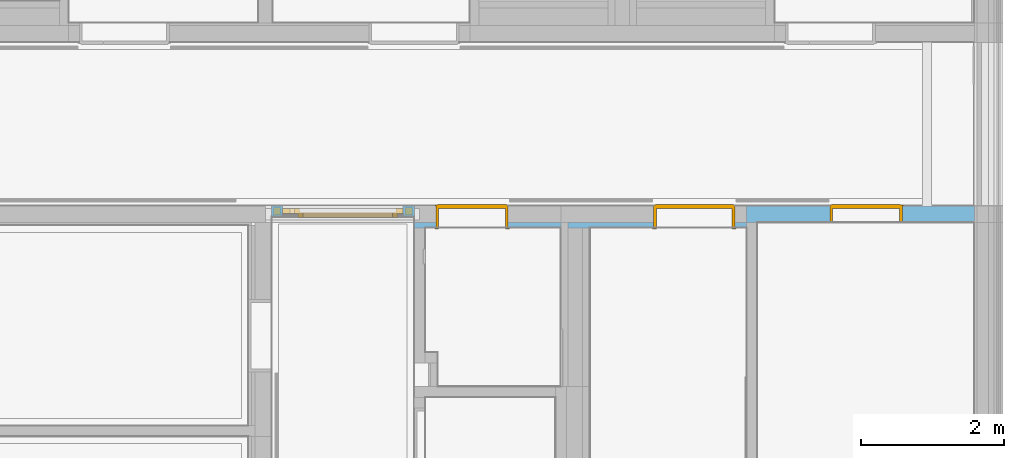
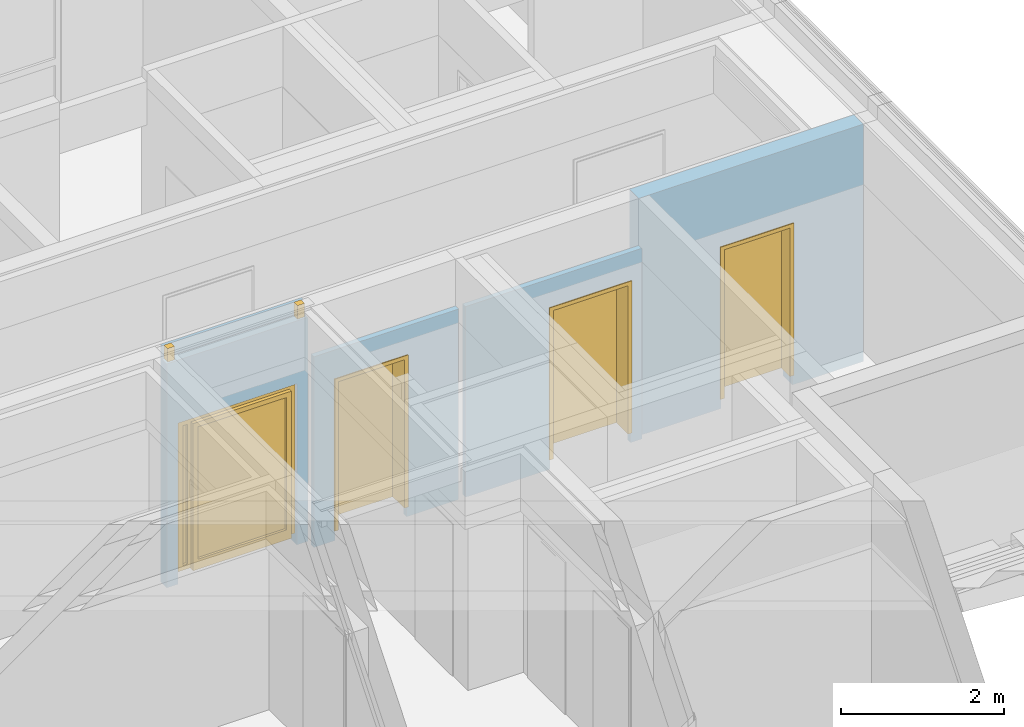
# One storey, part 138 of 222: 4 doors, 4 openings, plus 4 elements that do not belong to this part.
"""IFC4 building model written with IfcOpenShell, lengths in metres."""

from ifc_helpers import new_model, entity, si_unit, converted_unit, derived_unit, frame, frame_2d, origin, origin_with_axes, place, context, subcontext, project, spatial, polyline, rectangle, outline, extrude, clip, bounded_halfspace, closed_shell, open_shell, faceted_brep, surface_model, source, transform, mapped, material, type_object, element, fill, save


model = new_model("IFC4")

# Units and contexts
model_context = context("Model", 3, precision=1e-05, world=origin())
body_context = subcontext(model_context, "Body", "Model", "MODEL_VIEW")
ifc_project = project(units=[si_unit("LENGTHUNIT", "METRE"), si_unit("AREAUNIT", "SQUARE_METRE"), si_unit("VOLUMEUNIT", "CUBIC_METRE"), si_unit("MASSUNIT", "GRAM", prefix="KILO"), converted_unit("PLANEANGLEUNIT", "DEGREE", entity("IfcPlaneAngleMeasure", 0.0174532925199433), si_unit("PLANEANGLEUNIT", "RADIAN"), dimensions=[0, 0, 0, 0, 0, 0, 0]), derived_unit("THERMALTRANSMITTANCEUNIT", [(si_unit("POWERUNIT", "WATT"), 1), (si_unit("THERMODYNAMICTEMPERATUREUNIT", "KELVIN"), -1), (si_unit("LENGTHUNIT", "METRE"), -2)]), derived_unit("VOLUMETRICFLOWRATEUNIT", [(si_unit("LENGTHUNIT", "METRE"), 3), (converted_unit("TIMEUNIT", "hour", entity("IfcTimeMeasure", 3600.0), si_unit("TIMEUNIT", "SECOND"), dimensions=[0, 0, 1, 0, 0, 0, 0]), -1), (si_unit("LENGTHUNIT", "METRE"), -1)])], contexts=[model_context])

# Site, building, storey
site_placement = place(None, origin())
site = spatial("IfcSite", under=ifc_project, at=site_placement, Name="Psychiatrie Neubau Wunstorf", CompositionType="ELEMENT")
building_placement = place(site_placement, origin())
building = spatial("IfcBuilding", under=site, at=building_placement, Name="Neubau H2 Stationsgebäude", CompositionType="ELEMENT")
storey_placement = place(building_placement, frame((0.0, 0.0, 3.6)))
storey = spatial("IfcBuildingStorey", under=building, at=storey_placement, Name="H2 Ebene +1", CompositionType="ELEMENT", Elevation=3.6)

# Wall, opening, door
ifc_material_1 = material(Name="WI-HW 60")
wall_1_placement = place(storey_placement, frame((102.710993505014, 22.6040000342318, 0.0), z_axis=(0.0, 0.0, 1.0), x_axis=(1.0, -1.07714757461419e-08, 0.0)))
wall_1 = element("IfcWall", 1, at=wall_1_placement, inside=storey, material=ifc_material_1, context=body_context, shape_type="SweptSolid", body=[
    extrude(outline(polyline([(0.150006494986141, 0.0), (3.17800649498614, 3.42318198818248e-08), (3.17800649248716, 0.23200003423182), (0.0, 0.232), (0.0, 3.42318198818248e-08), (0.150006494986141, 0.0)])), frame((0.0, -3.42318198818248e-08, 0.0), z_axis=(0.0, 0.0, 1.0), x_axis=(1.0, 0.0, 0.0)), (0.0, 0.0, 1.0), 3.55),
])
opening_1_placement = place(wall_1_placement, frame((1.16155181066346, -2.17201927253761e-08, 0.0), z_axis=(-1.07714760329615e-08, 1.0, 0.0), x_axis=(0.0, 0.0, 1.0)))
opening_1 = element("IfcOpeningElement", 2, at=opening_1_placement, cuts=wall_1, Name="SMT", ObjectType="Opening", context=body_context, shape_type="SweptSolid", body=[
    extrude(outline(polyline([(2.41, 1.01), (2.41, 0.0), (0.0, 0.0), (0.0, 1.01), (2.41, 1.01)])), origin_with_axes(), (0.0, 0.0, 1.0), 0.232),
])
ifc_material_2 = material(Name="TI-1F-UZ-ZK")
door_type_1 = type_object("IfcDoorType", Name="SMT", OperationType="SINGLE_SWING_RIGHT", ParameterTakesPrecedence=False, PredefinedType="DOOR")
shared_shape_1 = source(origin_with_axes(), body_context, "Body", "Brep", [
    faceted_brep([(1.01, -0.015, 2.41), (1.01, -0.015, 0.15), (0.97, -0.015, 0.15), (0.97, -0.015, 2.41), (1.01, 0.247, 0.15), (1.01, 0.247, 2.41), (0.97, 0.247, 2.41), (0.97, 0.247, 0.15)], [[[0, 1, 2, 3]], [[4, 5, 6, 7]], [[1, 0, 5, 4]], [[2, 1, 4, 7]], [[3, 2, 7, 6]], [[0, 3, 6, 5]]], orient=[[False], [False], [False], [False], [False], [False]]),
    faceted_brep([(1.01, -0.015, 2.425), (1.025, -0.015, 2.425), (1.025, -0.015, 0.15), (1.01, -0.015, 0.15), (1.01, 0.0, 0.15), (1.025, 0.0, 0.15), (1.025, 0.0, 2.425), (1.01, 0.0, 2.425)], [[[0, 1, 2, 3]], [[4, 5, 6, 7]], [[3, 4, 7, 0]], [[2, 5, 4, 3]], [[1, 6, 5, 2]], [[0, 7, 6, 1]]], orient=[[False], [False], [False], [False], [False], [False]]),
    faceted_brep([(1.01, 0.232, 2.425), (1.025, 0.232, 2.425), (1.025, 0.232, 0.15), (1.01, 0.232, 0.15), (1.01, 0.247, 0.15), (1.025, 0.247, 0.15), (1.025, 0.247, 2.425), (1.01, 0.247, 2.425)], [[[0, 1, 2, 3]], [[4, 5, 6, 7]], [[3, 4, 7, 0]], [[2, 5, 4, 3]], [[1, 6, 5, 2]], [[0, 7, 6, 1]]], orient=[[False], [False], [False], [False], [False], [False]]),
    faceted_brep([(0.04, -0.015, 2.41), (0.04, -0.015, 0.15), (0.0, -0.015, 0.15), (0.0, -0.015, 2.41), (0.04, 0.247, 0.15), (0.04, 0.247, 2.41), (0.0, 0.247, 2.41), (0.0, 0.247, 0.15)], [[[0, 1, 2, 3]], [[4, 5, 6, 7]], [[1, 0, 5, 4]], [[2, 1, 4, 7]], [[3, 2, 7, 6]], [[0, 3, 6, 5]]], orient=[[False], [False], [False], [False], [False], [False]]),
    faceted_brep([(0.0, -0.015, 2.425), (0.0, -0.015, 0.15), (-0.015, -0.015, 0.15), (-0.015, -0.015, 2.425), (0.0, 0.0, 0.15), (0.0, 0.0, 2.425), (-0.015, 0.0, 2.425), (-0.015, 0.0, 0.15)], [[[0, 1, 2, 3]], [[4, 5, 6, 7]], [[1, 0, 5, 4]], [[2, 1, 4, 7]], [[3, 2, 7, 6]], [[0, 3, 6, 5]]], orient=[[False], [False], [False], [False], [False], [False]]),
    faceted_brep([(0.0, 0.232, 2.425), (0.0, 0.232, 0.15), (-0.015, 0.232, 0.15), (-0.015, 0.232, 2.425), (0.0, 0.247, 0.15), (0.0, 0.247, 2.425), (-0.015, 0.247, 2.425), (-0.015, 0.247, 0.15)], [[[0, 1, 2, 3]], [[4, 5, 6, 7]], [[1, 0, 5, 4]], [[2, 1, 4, 7]], [[3, 2, 7, 6]], [[0, 3, 6, 5]]], orient=[[False], [False], [False], [False], [False], [False]]),
    faceted_brep([(0.97, -0.015, 2.41), (0.97, -0.015, 2.37), (0.04, -0.015, 2.37), (0.04, -0.015, 2.41), (0.97, 0.247, 2.37), (0.97, 0.247, 2.41), (0.04, 0.247, 2.41), (0.04, 0.247, 2.37)], [[[0, 1, 2, 3]], [[4, 5, 6, 7]], [[1, 0, 5, 4]], [[2, 1, 4, 7]], [[3, 2, 7, 6]], [[0, 3, 6, 5]]], orient=[[False], [False], [False], [False], [False], [False]]),
    faceted_brep([(1.01, -0.015, 2.425), (1.01, -0.015, 2.41), (0.0, -0.015, 2.41), (0.0, -0.015, 2.425), (1.01, 0.0, 2.41), (1.01, 0.0, 2.425), (0.0, 0.0, 2.425), (0.0, 0.0, 2.41)], [[[0, 1, 2, 3]], [[4, 5, 6, 7]], [[1, 0, 5, 4]], [[2, 1, 4, 7]], [[3, 2, 7, 6]], [[0, 3, 6, 5]]], orient=[[False], [False], [False], [False], [False], [False]]),
    faceted_brep([(1.01, 0.232, 2.425), (1.01, 0.232, 2.41), (0.0, 0.232, 2.41), (0.0, 0.232, 2.425), (1.01, 0.247, 2.41), (1.01, 0.247, 2.425), (0.0, 0.247, 2.425), (0.0, 0.247, 2.41)], [[[0, 1, 2, 3]], [[4, 5, 6, 7]], [[1, 0, 5, 4]], [[2, 1, 4, 7]], [[3, 2, 7, 6]], [[0, 3, 6, 5]]], orient=[[False], [False], [False], [False], [False], [False]]),
    faceted_brep([(0.985, 0.198, 2.385), (0.985, 0.198, 0.15), (0.025, 0.198, 0.15), (0.025, 0.198, 2.385), (0.985, 0.248, 0.15), (0.985, 0.248, 2.385), (0.025, 0.248, 2.385), (0.025, 0.248, 0.15)], [[[0, 1, 2, 3]], [[4, 5, 6, 7]], [[1, 0, 5, 4]], [[2, 1, 4, 7]], [[3, 2, 7, 6]], [[0, 3, 6, 5]]], orient=[[False], [False], [False], [False], [False], [False]]),
])
door_1_placement = place(opening_1_placement, frame((0.0, 0.0, 0.0), z_axis=(1.0, 0.0, 0.0), x_axis=(0.0, 1.0, -2.86819606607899e-16)))
door_1 = element("IfcDoor", 3, at=door_1_placement, inside=storey, type_object=door_type_1, material=ifc_material_2, Name="SMT", OverallHeight=2.41, OverallWidth=1.01, context=body_context, shape_type="MappedRepresentation", body=[
    mapped(shared_shape_1, transform((0.0, 0.0, 0.0), x_axis=(1.0, 0.0, 0.0), y_axis=(0.0, 1.0, 0.0), z_axis=(0.0, 0.0, 1.0), scale=1.0)),
])
fill(opening_1, door_1)

ifc_material_3 = material(Name="WI-LB")
wall_2_placement = place(storey_placement, frame((98.075, 22.5290000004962, 0.0)))
wall_2 = element("IfcWall", 4, at=wall_2_placement, inside=storey, material=ifc_material_3, context=body_context, shape_type="SweptSolid", body=[
    extrude(rectangle(XDim=2.04499214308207, YDim=0.075, at=frame_2d((1.02249607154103, 0.0375), x_axis=(1.0, 0.0))), origin_with_axes(), (0.0, 0.0, 1.0), 2.85),
])
opening_2_placement = place(wall_2_placement, frame((0.300006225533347, 0.0, 0.0), z_axis=(0.0, 1.0, 0.0), x_axis=(0.0, 0.0, 1.0)))
opening_2 = element("IfcOpeningElement", 5, at=opening_2_placement, cuts=wall_2, Name="Türöffnung", ObjectType="Opening", context=body_context, shape_type="SweptSolid", body=[
    extrude(outline(polyline([(2.41, 1.01), (2.41, 0.0), (0.0, 0.0), (0.0, 1.01), (2.41, 1.01)])), origin_with_axes(), (0.0, 0.0, 1.0), 0.075),
])
ifc_material_4 = material(Name="TI-1F-UZ-ZK")
door_type_2 = type_object("IfcDoorType", Name="SMT", OperationType="SINGLE_SWING_RIGHT", ParameterTakesPrecedence=False, PredefinedType="DOOR")
shared_shape_2 = source(origin_with_axes(), body_context, "Body", "Brep", [
    faceted_brep([(0.0, -0.015, 2.41), (0.04, -0.015, 2.41), (0.04, -0.015, 0.15), (0.0, -0.015, 0.15), (0.0, 0.322, 0.15), (0.04, 0.322, 0.15), (0.04, 0.322, 2.41), (0.0, 0.322, 2.41)], [[[0, 1, 2, 3]], [[4, 5, 6, 7]], [[3, 4, 7, 0]], [[2, 5, 4, 3]], [[1, 6, 5, 2]], [[0, 7, 6, 1]]], orient=[[False], [False], [False], [False], [False], [False]]),
    faceted_brep([(0.0, -0.015, 2.425), (0.0, -0.015, 0.15), (-0.015, -0.015, 0.15), (-0.015, -0.015, 2.425), (0.0, 0.0, 0.15), (0.0, 0.0, 2.425), (-0.015, 0.0, 2.425), (-0.015, 0.0, 0.15)], [[[0, 1, 2, 3]], [[4, 5, 6, 7]], [[1, 0, 5, 4]], [[2, 1, 4, 7]], [[3, 2, 7, 6]], [[0, 3, 6, 5]]], orient=[[False], [False], [False], [False], [False], [False]]),
    faceted_brep([(0.0, 0.307, 2.425), (0.0, 0.307, 0.15), (-0.015, 0.307, 0.15), (-0.015, 0.307, 2.425), (0.0, 0.322, 0.15), (0.0, 0.322, 2.425), (-0.015, 0.322, 2.425), (-0.015, 0.322, 0.15)], [[[0, 1, 2, 3]], [[4, 5, 6, 7]], [[1, 0, 5, 4]], [[2, 1, 4, 7]], [[3, 2, 7, 6]], [[0, 3, 6, 5]]], orient=[[False], [False], [False], [False], [False], [False]]),
    faceted_brep([(0.97, -0.015, 2.41), (1.01, -0.015, 2.41), (1.01, -0.015, 0.15), (0.97, -0.015, 0.15), (0.97, 0.322, 0.15), (1.01, 0.322, 0.15), (1.01, 0.322, 2.41), (0.97, 0.322, 2.41)], [[[0, 1, 2, 3]], [[4, 5, 6, 7]], [[3, 4, 7, 0]], [[2, 5, 4, 3]], [[1, 6, 5, 2]], [[0, 7, 6, 1]]], orient=[[False], [False], [False], [False], [False], [False]]),
    faceted_brep([(1.01, -0.015, 2.425), (1.025, -0.015, 2.425), (1.025, -0.015, 0.15), (1.01, -0.015, 0.15), (1.01, 0.0, 0.15), (1.025, 0.0, 0.15), (1.025, 0.0, 2.425), (1.01, 0.0, 2.425)], [[[0, 1, 2, 3]], [[4, 5, 6, 7]], [[3, 4, 7, 0]], [[2, 5, 4, 3]], [[1, 6, 5, 2]], [[0, 7, 6, 1]]], orient=[[False], [False], [False], [False], [False], [False]]),
    faceted_brep([(1.01, 0.307, 2.425), (1.025, 0.307, 2.425), (1.025, 0.307, 0.15), (1.01, 0.307, 0.15), (1.01, 0.322, 0.15), (1.025, 0.322, 0.15), (1.025, 0.322, 2.425), (1.01, 0.322, 2.425)], [[[0, 1, 2, 3]], [[4, 5, 6, 7]], [[3, 4, 7, 0]], [[2, 5, 4, 3]], [[1, 6, 5, 2]], [[0, 7, 6, 1]]], orient=[[False], [False], [False], [False], [False], [False]]),
    faceted_brep([(0.04, -0.015, 2.41), (0.97, -0.015, 2.41), (0.97, -0.015, 2.37), (0.04, -0.015, 2.37), (0.04, 0.322, 2.37), (0.97, 0.322, 2.37), (0.97, 0.322, 2.41), (0.04, 0.322, 2.41)], [[[0, 1, 2, 3]], [[4, 5, 6, 7]], [[3, 4, 7, 0]], [[2, 5, 4, 3]], [[1, 6, 5, 2]], [[0, 7, 6, 1]]], orient=[[False], [False], [False], [False], [False], [False]]),
    faceted_brep([(0.0, -0.015, 2.425), (1.01, -0.015, 2.425), (1.01, -0.015, 2.41), (0.0, -0.015, 2.41), (0.0, 0.0, 2.41), (1.01, 0.0, 2.41), (1.01, 0.0, 2.425), (0.0, 0.0, 2.425)], [[[0, 1, 2, 3]], [[4, 5, 6, 7]], [[3, 4, 7, 0]], [[2, 5, 4, 3]], [[1, 6, 5, 2]], [[0, 7, 6, 1]]], orient=[[False], [False], [False], [False], [False], [False]]),
    faceted_brep([(0.0, 0.307, 2.425), (1.01, 0.307, 2.425), (1.01, 0.307, 2.41), (0.0, 0.307, 2.41), (0.0, 0.322, 2.41), (1.01, 0.322, 2.41), (1.01, 0.322, 2.425), (0.0, 0.322, 2.425)], [[[0, 1, 2, 3]], [[4, 5, 6, 7]], [[3, 4, 7, 0]], [[2, 5, 4, 3]], [[1, 6, 5, 2]], [[0, 7, 6, 1]]], orient=[[False], [False], [False], [False], [False], [False]]),
    faceted_brep([(0.025, 0.273, 2.385), (0.985, 0.273, 2.385), (0.985, 0.273, 0.15), (0.025, 0.273, 0.15), (0.025, 0.323, 0.15), (0.985, 0.323, 0.15), (0.985, 0.323, 2.385), (0.025, 0.323, 2.385)], [[[0, 1, 2, 3]], [[4, 5, 6, 7]], [[3, 4, 7, 0]], [[2, 5, 4, 3]], [[1, 6, 5, 2]], [[0, 7, 6, 1]]], orient=[[False], [False], [False], [False], [False], [False]]),
])
door_2_placement = place(opening_2_placement, frame((0.0, 0.0, 0.0), z_axis=(1.0, 0.0, 0.0), x_axis=(0.0, 1.0, 0.0)))
door_2 = element("IfcDoor", 6, at=door_2_placement, inside=storey, type_object=door_type_2, material=ifc_material_4, Name="SMT", OverallHeight=2.41, OverallWidth=1.01, context=body_context, shape_type="MappedRepresentation", body=[
    mapped(shared_shape_2, transform((0.0, 0.0, 0.0), x_axis=(1.0, 0.0, 0.0), y_axis=(0.0, 1.0, 0.0), z_axis=(0.0, 0.0, 1.0), scale=1.0)),
])
fill(opening_2, door_2)

ifc_material_5 = material(Name="WI-LB")
wall_3_placement = place(storey_placement, frame((100.21999212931, 22.5290000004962, 0.0)))
wall_3 = element("IfcWall", 7, at=wall_3_placement, inside=storey, material=ifc_material_5, context=body_context, shape_type="SweptSolid", body=[
    extrude(rectangle(XDim=2.49100137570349, YDim=0.075, at=frame_2d((1.24550068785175, 0.0375), x_axis=(1.0, 0.0))), origin_with_axes(), (0.0, 0.0, 1.0), 2.85),
])
opening_3_placement = place(wall_3_placement, frame((1.19500137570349, 0.0, 0.0), z_axis=(0.0, 1.0, 0.0), x_axis=(0.0, 0.0, 1.0)))
opening_3 = element("IfcOpeningElement", 8, at=opening_3_placement, cuts=wall_3, Name="Türöffnung", ObjectType="Opening", context=body_context, shape_type="SweptSolid", body=[
    extrude(outline(polyline([(2.41, 1.135), (2.41, 0.0), (0.0, 0.0), (0.0, 1.135), (2.41, 1.135)])), origin_with_axes(), (0.0, 0.0, 1.0), 0.075),
])
ifc_material_6 = material(Name="TI-1F-UZ-D-N")
door_type_3 = type_object("IfcDoorType", Name="SMT", OperationType="SINGLE_SWING_RIGHT", ParameterTakesPrecedence=False, PredefinedType="DOOR")
shared_shape_3 = source(origin_with_axes(), body_context, "Body", "Brep", [
    faceted_brep([(1.135, -0.015, 2.41), (1.135, -0.015, 0.15), (1.095, -0.015, 0.15), (1.095, -0.015, 2.41), (1.135, 0.322, 0.15), (1.135, 0.322, 2.41), (1.095, 0.322, 2.41), (1.095, 0.322, 0.15)], [[[0, 1, 2, 3]], [[4, 5, 6, 7]], [[1, 0, 5, 4]], [[2, 1, 4, 7]], [[3, 2, 7, 6]], [[0, 3, 6, 5]]], orient=[[False], [False], [False], [False], [False], [False]]),
    faceted_brep([(1.135, -0.015, 2.425), (1.15, -0.015, 2.425), (1.15, -0.015, 0.15), (1.135, -0.015, 0.15), (1.135, 0.0, 0.15), (1.15, 0.0, 0.15), (1.15, 0.0, 2.425), (1.135, 0.0, 2.425)], [[[0, 1, 2, 3]], [[4, 5, 6, 7]], [[3, 4, 7, 0]], [[2, 5, 4, 3]], [[1, 6, 5, 2]], [[0, 7, 6, 1]]], orient=[[False], [False], [False], [False], [False], [False]]),
    faceted_brep([(1.135, 0.307, 2.425), (1.15, 0.307, 2.425), (1.15, 0.307, 0.15), (1.135, 0.307, 0.15), (1.135, 0.322, 0.15), (1.15, 0.322, 0.15), (1.15, 0.322, 2.425), (1.135, 0.322, 2.425)], [[[0, 1, 2, 3]], [[4, 5, 6, 7]], [[3, 4, 7, 0]], [[2, 5, 4, 3]], [[1, 6, 5, 2]], [[0, 7, 6, 1]]], orient=[[False], [False], [False], [False], [False], [False]]),
    faceted_brep([(0.04, -0.015, 2.41), (0.04, -0.015, 0.15), (0.0, -0.015, 0.15), (0.0, -0.015, 2.41), (0.04, 0.322, 0.15), (0.04, 0.322, 2.41), (0.0, 0.322, 2.41), (0.0, 0.322, 0.15)], [[[0, 1, 2, 3]], [[4, 5, 6, 7]], [[1, 0, 5, 4]], [[2, 1, 4, 7]], [[3, 2, 7, 6]], [[0, 3, 6, 5]]], orient=[[False], [False], [False], [False], [False], [False]]),
    faceted_brep([(0.0, -0.015, 2.425), (0.0, -0.015, 0.15), (-0.015, -0.015, 0.15), (-0.015, -0.015, 2.425), (0.0, 0.0, 0.15), (0.0, 0.0, 2.425), (-0.015, 0.0, 2.425), (-0.015, 0.0, 0.15)], [[[0, 1, 2, 3]], [[4, 5, 6, 7]], [[1, 0, 5, 4]], [[2, 1, 4, 7]], [[3, 2, 7, 6]], [[0, 3, 6, 5]]], orient=[[False], [False], [False], [False], [False], [False]]),
    faceted_brep([(0.0, 0.307, 2.425), (0.0, 0.307, 0.15), (-0.015, 0.307, 0.15), (-0.015, 0.307, 2.425), (0.0, 0.322, 0.15), (0.0, 0.322, 2.425), (-0.015, 0.322, 2.425), (-0.015, 0.322, 0.15)], [[[0, 1, 2, 3]], [[4, 5, 6, 7]], [[1, 0, 5, 4]], [[2, 1, 4, 7]], [[3, 2, 7, 6]], [[0, 3, 6, 5]]], orient=[[False], [False], [False], [False], [False], [False]]),
    faceted_brep([(1.095, -0.015, 2.41), (1.095, -0.015, 2.37), (0.04, -0.015, 2.37), (0.04, -0.015, 2.41), (1.095, 0.322, 2.37), (1.095, 0.322, 2.41), (0.04, 0.322, 2.41), (0.04, 0.322, 2.37)], [[[0, 1, 2, 3]], [[4, 5, 6, 7]], [[1, 0, 5, 4]], [[2, 1, 4, 7]], [[3, 2, 7, 6]], [[0, 3, 6, 5]]], orient=[[False], [False], [False], [False], [False], [False]]),
    faceted_brep([(1.135, -0.015, 2.425), (1.135, -0.015, 2.41), (0.0, -0.015, 2.41), (0.0, -0.015, 2.425), (1.135, 0.0, 2.41), (1.135, 0.0, 2.425), (0.0, 0.0, 2.425), (0.0, 0.0, 2.41)], [[[0, 1, 2, 3]], [[4, 5, 6, 7]], [[1, 0, 5, 4]], [[2, 1, 4, 7]], [[3, 2, 7, 6]], [[0, 3, 6, 5]]], orient=[[False], [False], [False], [False], [False], [False]]),
    faceted_brep([(1.135, 0.307, 2.425), (1.135, 0.307, 2.41), (0.0, 0.307, 2.41), (0.0, 0.307, 2.425), (1.135, 0.322, 2.41), (1.135, 0.322, 2.425), (0.0, 0.322, 2.425), (0.0, 0.322, 2.41)], [[[0, 1, 2, 3]], [[4, 5, 6, 7]], [[1, 0, 5, 4]], [[2, 1, 4, 7]], [[3, 2, 7, 6]], [[0, 3, 6, 5]]], orient=[[False], [False], [False], [False], [False], [False]]),
    faceted_brep([(1.11, 0.273, 2.385), (1.11, 0.273, 0.15), (0.025, 0.273, 0.15), (0.025, 0.273, 2.385), (1.11, 0.323, 0.15), (1.11, 0.323, 2.385), (0.025, 0.323, 2.385), (0.025, 0.323, 0.15)], [[[0, 1, 2, 3]], [[4, 5, 6, 7]], [[1, 0, 5, 4]], [[2, 1, 4, 7]], [[3, 2, 7, 6]], [[0, 3, 6, 5]]], orient=[[False], [False], [False], [False], [False], [False]]),
])
door_3_placement = place(opening_3_placement, frame((0.0, 0.0, 0.0), z_axis=(1.0, 0.0, 0.0), x_axis=(0.0, 1.0, 0.0)))
door_3 = element("IfcDoor", 9, at=door_3_placement, inside=storey, type_object=door_type_3, material=ifc_material_6, Name="SMT", OverallHeight=2.41, OverallWidth=1.135, context=body_context, shape_type="MappedRepresentation", body=[
    mapped(shared_shape_3, transform((0.0, 0.0, 0.0), x_axis=(1.0, 0.0, 0.0), y_axis=(0.0, 1.0, 0.0), z_axis=(0.0, 0.0, 1.0), scale=1.0)),
])
fill(opening_3, door_3)

ifc_material_7 = material(Name="WI-LB")
wall_4_placement = place(storey_placement, frame((96.0824999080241, 22.681, 0.0)))
wall_4 = element("IfcWall", 10, at=wall_4_placement, inside=storey, material=ifc_material_7, context=body_context, shape_type="Clipping", body=[
    clip(extrude(rectangle(XDim=1.99250000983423, YDim=0.155, at=frame_2d((0.996250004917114, 0.0775), x_axis=(1.0, 0.0))), origin_with_axes(), (0.0, 0.0, 1.0), 3.55), bounded_halfspace(frame((0.996250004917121, 0.0595013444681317, 3.35), z_axis=(0.0, 0.0, -1.0), x_axis=(-1.0, 1.82583628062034e-15, 0.0)), True, origin_with_axes(), polyline([(1.99250000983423, 0.119002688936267), (0.0, 0.119002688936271), (0.0, 0.0), (1.99250000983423, 0.0), (1.99250000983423, 0.119002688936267)]))),
])
opening_4_placement = place(wall_4_placement, frame((1.83750000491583, 0.155, 0.0), z_axis=(0.0, -1.0, 0.0), x_axis=(0.0, 0.0, 1.0)))
opening_4 = element("IfcOpeningElement", 11, at=opening_4_placement, cuts=wall_4, Name="Türöffnung", ObjectType="Opening", context=body_context, shape_type="SweptSolid", body=[
    extrude(outline(polyline([(2.41, 1.6825), (2.41, 0.0), (0.0, 0.0), (0.0, 1.6825), (2.41, 1.6825)])), origin_with_axes(), (0.0, 0.0, 1.0), 0.155),
])
ifc_material_8 = material(Name="TI-2F-AG-D-O")
door_type_4 = type_object("IfcDoorType", Name="SMT", OperationType="NOTDEFINED", ParameterTakesPrecedence=False, PredefinedType="DOOR")
shared_shape_4 = source(origin_with_axes(), body_context, "Body", "Brep", [
    faceted_brep([(-0.1275, 0.025, 0.0), (-0.0275, 0.025, 0.0), (-0.0275, 0.125000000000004, 0.0), (-0.1275, 0.125000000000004, 0.0), (-0.1275, 0.125000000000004, 3.55), (-0.0275, 0.125000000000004, 3.55), (-0.0275, 0.025, 3.55), (-0.1275, 0.025, 3.55)], [[[0, 1, 2, 3]], [[4, 5, 6, 7]], [[3, 4, 7, 0]], [[2, 5, 4, 3]], [[1, 6, 5, 2]], [[0, 7, 6, 1]]], orient=[[False], [False], [False], [False], [False], [False]]),
    faceted_brep([(1.71, 0.025, 0.0), (1.81, 0.025, 0.0), (1.81, 0.125000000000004, 0.0), (1.71, 0.125000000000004, 0.0), (1.71, 0.125000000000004, 3.55), (1.81, 0.125000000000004, 3.55), (1.81, 0.025, 3.55), (1.71, 0.025, 3.55)], [[[0, 1, 2, 3]], [[4, 5, 6, 7]], [[3, 4, 7, 0]], [[2, 5, 4, 3]], [[1, 6, 5, 2]], [[0, 7, 6, 1]]], orient=[[False], [False], [False], [False], [False], [False]]),
    faceted_brep([(-0.0275, 0.025, 2.4375), (1.71, 0.025, 2.4375), (1.71, 0.125000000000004, 2.4375), (-0.0275, 0.125000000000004, 2.4375), (-0.0275, 0.125000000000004, 2.5375), (1.71, 0.125000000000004, 2.5375), (1.71, 0.025, 2.5375), (-0.0275, 0.025, 2.5375)], [[[0, 1, 2, 3]], [[4, 5, 6, 7]], [[3, 4, 7, 0]], [[2, 5, 4, 3]], [[1, 6, 5, 2]], [[0, 7, 6, 1]]], orient=[[False], [False], [False], [False], [False], [False]]),
])
shared_shape_5 = source(origin_with_axes(), body_context, "Body", "SurfaceModel", [
    surface_model("IfcShellBasedSurfaceModel", [(1.6825, 0.04, 2.41), (1.6825, 0.04, 0.15), (1.5825, 0.04, 0.15), (1.5825, 0.04, 2.41), (1.6825, 0.11, 0.15), (1.6825, 0.11, 2.41), (1.5825, 0.11, 2.41), (1.5825, 0.11, 0.15)], [closed_shell([[[0, 1, 2, 3]], [[4, 5, 6, 7]], [[1, 0, 5, 4]], [[2, 1, 4, 7]], [[3, 2, 7, 6]], [[0, 3, 6, 5]]], orient=[[False], [False], [False], [False], [False], [False]])]),
    surface_model("IfcShellBasedSurfaceModel", [(0.1, 0.04, 2.41), (0.1, 0.04, 0.15), (0.0, 0.04, 0.15), (0.0, 0.04, 2.41), (0.1, 0.11, 0.15), (0.1, 0.11, 2.41), (0.0, 0.11, 2.41), (0.0, 0.11, 0.15)], [closed_shell([[[0, 1, 2, 3]], [[4, 5, 6, 7]], [[1, 0, 5, 4]], [[2, 1, 4, 7]], [[3, 2, 7, 6]], [[0, 3, 6, 5]]], orient=[[False], [False], [False], [False], [False], [False]])]),
    surface_model("IfcShellBasedSurfaceModel", [(1.5825, 0.04, 2.41), (1.5825, 0.04, 2.31), (0.1, 0.04, 2.31), (0.1, 0.04, 2.41), (1.5825, 0.11, 2.31), (1.5825, 0.11, 2.41), (0.1, 0.11, 2.41), (0.1, 0.11, 2.31)], [closed_shell([[[0, 1, 2, 3]], [[4, 5, 6, 7]], [[1, 0, 5, 4]], [[2, 1, 4, 7]], [[3, 2, 7, 6]], [[0, 3, 6, 5]]], orient=[[False], [False], [False], [False], [False], [False]])]),
    surface_model("IfcShellBasedSurfaceModel", [(1.52, 0.04, 2.31), (1.52, 0.04, 0.15), (1.45, 0.04, 0.15), (1.45, 0.04, 2.31), (1.52, 0.11, 0.15), (1.52, 0.11, 2.31), (1.45, 0.11, 2.31), (1.45, 0.11, 0.15)], [closed_shell([[[0, 1, 2, 3]], [[4, 5, 6, 7]], [[1, 0, 5, 4]], [[2, 1, 4, 7]], [[3, 2, 7, 6]], [[0, 3, 6, 5]]], orient=[[False], [False], [False], [False], [False], [False]])]),
    surface_model("IfcShellBasedSurfaceModel", [(1.5825, 0.04, 0.22), (1.5825, 0.04, 0.15), (1.52, 0.04, 0.15), (1.52, 0.04, 0.22), (1.5825, 0.11, 0.15), (1.5825, 0.11, 0.22), (1.52, 0.11, 0.22), (1.52, 0.11, 0.15)], [closed_shell([[[0, 1, 2, 3]], [[4, 5, 6, 7]], [[1, 0, 5, 4]], [[2, 1, 4, 7]], [[3, 2, 7, 6]], [[0, 3, 6, 5]]], orient=[[False], [False], [False], [False], [False], [False]])]),
    surface_model("IfcShellBasedSurfaceModel", [(1.47, 0.09, 2.33), (1.47, 0.09, 0.13), (1.4, 0.09, 0.13), (1.4, 0.09, 2.33), (1.47, 0.16, 0.13), (1.47, 0.16, 2.33), (1.4, 0.16, 2.33), (1.4, 0.16, 0.13)], [closed_shell([[[0, 1, 2, 3]], [[4, 5, 6, 7]], [[1, 0, 5, 4]], [[2, 1, 4, 7]], [[3, 2, 7, 6]], [[0, 3, 6, 5]]], orient=[[False], [False], [False], [False], [False], [False]])]),
    surface_model("IfcShellBasedSurfaceModel", [(0.15, 0.09, 2.33), (0.15, 0.09, 0.13), (0.08, 0.09, 0.13), (0.08, 0.09, 2.33), (0.15, 0.16, 0.13), (0.15, 0.16, 2.33), (0.08, 0.16, 2.33), (0.08, 0.16, 0.13)], [closed_shell([[[0, 1, 2, 3]], [[4, 5, 6, 7]], [[1, 0, 5, 4]], [[2, 1, 4, 7]], [[3, 2, 7, 6]], [[0, 3, 6, 5]]], orient=[[False], [False], [False], [False], [False], [False]])]),
    surface_model("IfcShellBasedSurfaceModel", [(1.4, 0.09, 0.28), (1.4, 0.09, 0.13), (0.15, 0.09, 0.13), (0.15, 0.09, 0.28), (1.4, 0.16, 0.13), (1.4, 0.16, 0.28), (0.15, 0.16, 0.28), (0.15, 0.16, 0.13)], [closed_shell([[[0, 1, 2, 3]], [[4, 5, 6, 7]], [[1, 0, 5, 4]], [[2, 1, 4, 7]], [[3, 2, 7, 6]], [[0, 3, 6, 5]]], orient=[[False], [False], [False], [False], [False], [False]])]),
    surface_model("IfcShellBasedSurfaceModel", [(1.4, 0.09, 2.33), (1.4, 0.09, 2.26), (0.15, 0.09, 2.26), (0.15, 0.09, 2.33), (1.4, 0.16, 2.26), (1.4, 0.16, 2.33), (0.15, 0.16, 2.33), (0.15, 0.16, 2.26)], [closed_shell([[[0, 1, 2, 3]], [[4, 5, 6, 7]], [[1, 0, 5, 4]], [[2, 1, 4, 7]], [[3, 2, 7, 6]], [[0, 3, 6, 5]]], orient=[[False], [False], [False], [False], [False], [False]])]),
    surface_model("IfcShellBasedSurfaceModel", [(1.4, 0.125, 0.28), (0.15, 0.125, 0.28), (0.15, 0.125, 2.26), (1.4, 0.125, 2.26)], [open_shell([[[0, 1, 2, 3]]], orient=[[False]])]),
    surface_model("IfcShellBasedSurfaceModel", [(1.5825, 0.075, 0.22), (1.52, 0.075, 0.22), (1.52, 0.075, 2.31), (1.5825, 0.075, 2.31)], [open_shell([[[0, 1, 2, 3]]], orient=[[False]])]),
])
door_4_placement = place(opening_4_placement, frame((0.0, 0.0, 0.0), z_axis=(1.0, 0.0, 0.0), x_axis=(0.0, 1.0, 0.0)))
door_4 = element("IfcDoor", 12, at=door_4_placement, inside=storey, type_object=door_type_4, material=ifc_material_8, Name="SMT", OverallHeight=2.41, OverallWidth=1.6825, context=body_context, shape_type="MappedRepresentation", body=[
    mapped(shared_shape_4, transform((0.0, 0.0, 0.0), x_axis=(1.0, 0.0, 0.0), y_axis=(0.0, 1.0, 0.0), z_axis=(0.0, 0.0, 1.0), scale=1.0)),
    mapped(shared_shape_5, transform((0.0, 0.0, 0.0), x_axis=(1.0, 0.0, 0.0), y_axis=(0.0, 1.0, 0.0), z_axis=(0.0, 0.0, 1.0), scale=1.0)),
])
fill(opening_4, door_4)

save(model, "model.ifc")
